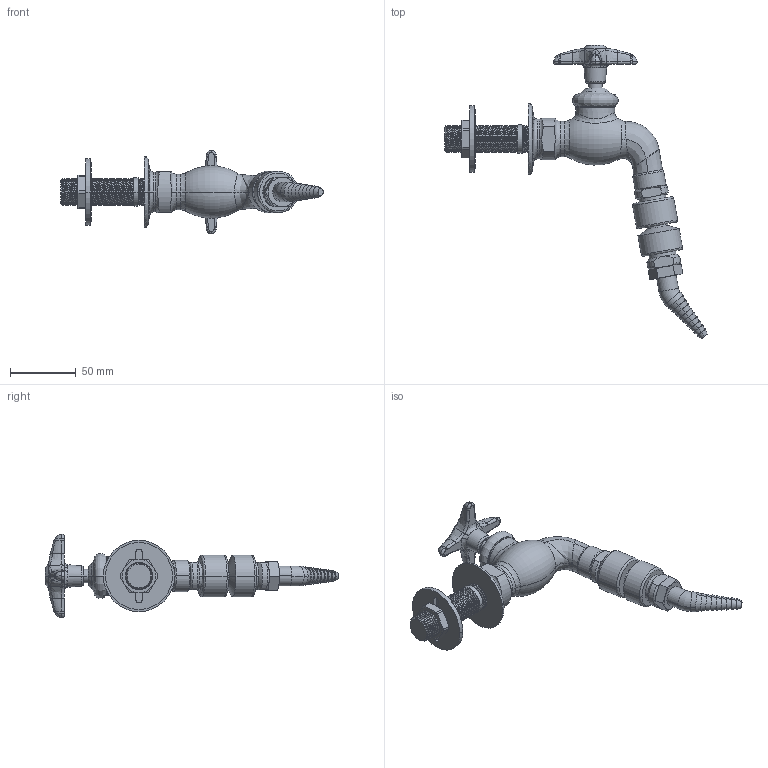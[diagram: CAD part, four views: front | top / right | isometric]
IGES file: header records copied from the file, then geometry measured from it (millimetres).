
Start section:  PTC IGES file: LWV4-A52.igs
Global section: file name: LWV4-A52.igs; native system: Creo Parametric by PTC Inc.; preprocessor: 2014500; author: usch_engrender; organization: Unknown; date: 20150915.131335; units: inch
Bounding box: 199.3 x 222.49 x 63.41 mm (x, y, z)
Volume: 194860.7 mm3; surface area: 44937.8 mm2
Topology: 1 solids, 4 shells, 573 faces, 1429 edges, 880 vertices
Faces by surface type: bspline 320, revolution 253
